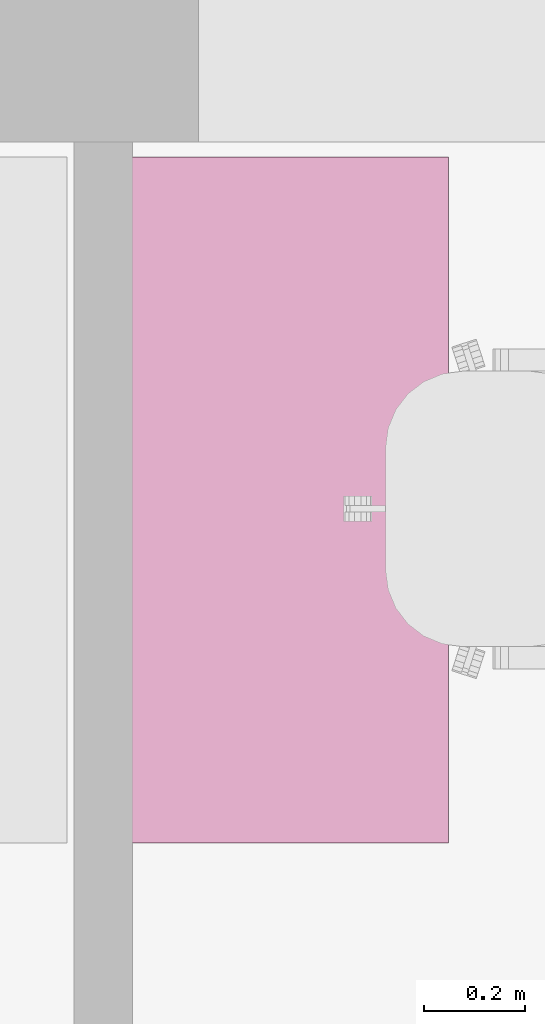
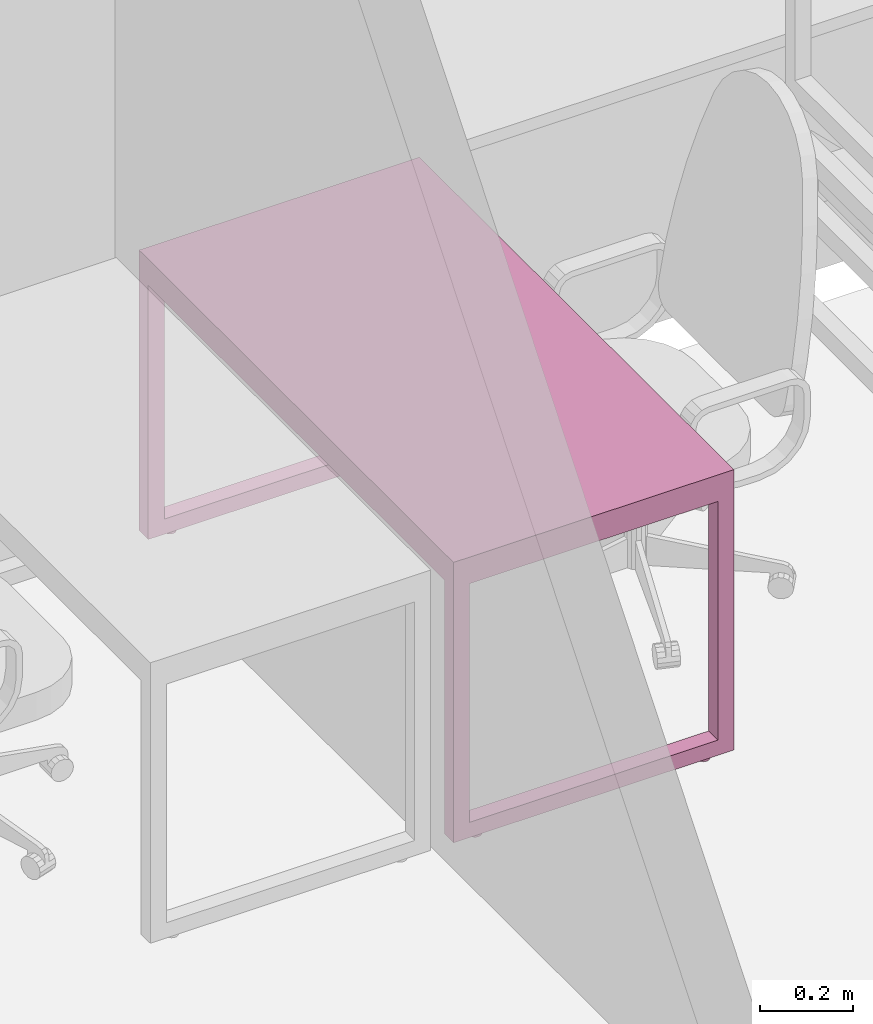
# One storey, part 43 of 48: 1 furnishing.
"""IFC2X3 building model written with IfcOpenShell, lengths in millimetres."""

from ifc_helpers import new_model, entity, si_unit, converted_unit, derived_unit, direction, frame, origin, place, context, subcontext, project, spatial, faceted_brep, source, transform, mapped, material, material_list, type_object, type_shapes, element, save


model = new_model("IFC2X3")

# Units and contexts
model_context = context("Model", 3, precision=0.01, world=origin(), true_north=direction((6.12303176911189e-17, 1.0)))
body_context = subcontext(model_context, "Body", "Model", "MODEL_VIEW")
ifc_project = project(units=[si_unit("LENGTHUNIT", "METRE", prefix="MILLI"), si_unit("AREAUNIT", "SQUARE_METRE"), si_unit("VOLUMEUNIT", "CUBIC_METRE"), converted_unit("PLANEANGLEUNIT", "DEGREE", entity("IfcRatioMeasure", 0.0174532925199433), si_unit("PLANEANGLEUNIT", "RADIAN"), dimensions=[0, 0, 0, 0, 0, 0, 0]), si_unit("MASSUNIT", "GRAM", prefix="KILO"), derived_unit("MASSDENSITYUNIT", [(si_unit("MASSUNIT", "GRAM", prefix="KILO"), 1), (si_unit("LENGTHUNIT", "METRE"), -3)]), si_unit("TIMEUNIT", "SECOND"), si_unit("FREQUENCYUNIT", "HERTZ"), si_unit("THERMODYNAMICTEMPERATUREUNIT", "DEGREE_CELSIUS"), derived_unit("THERMALTRANSMITTANCEUNIT", [(si_unit("MASSUNIT", "GRAM", prefix="KILO"), 1), (si_unit("THERMODYNAMICTEMPERATUREUNIT", "KELVIN"), -1), (si_unit("TIMEUNIT", "SECOND"), -3)]), derived_unit("VOLUMETRICFLOWRATEUNIT", [(si_unit("LENGTHUNIT", "METRE"), 3), (si_unit("TIMEUNIT", "SECOND"), -1)]), si_unit("ELECTRICCURRENTUNIT", "AMPERE"), si_unit("ELECTRICVOLTAGEUNIT", "VOLT"), si_unit("POWERUNIT", "WATT"), si_unit("FORCEUNIT", "NEWTON", prefix="KILO"), si_unit("ILLUMINANCEUNIT", "LUX"), si_unit("LUMINOUSFLUXUNIT", "LUMEN"), si_unit("LUMINOUSINTENSITYUNIT", "CANDELA"), derived_unit("USERDEFINED", [(si_unit("MASSUNIT", "GRAM", prefix="KILO"), -1), (si_unit("LENGTHUNIT", "METRE"), -2), (si_unit("TIMEUNIT", "SECOND"), 3), (si_unit("LUMINOUSFLUXUNIT", "LUMEN"), 1)]), derived_unit("LINEARVELOCITYUNIT", [(si_unit("LENGTHUNIT", "METRE"), 1), (si_unit("TIMEUNIT", "SECOND"), -1)]), si_unit("PRESSUREUNIT", "PASCAL"), derived_unit("USERDEFINED", [(si_unit("LENGTHUNIT", "METRE"), -2), (si_unit("MASSUNIT", "GRAM", prefix="KILO"), 1), (si_unit("TIMEUNIT", "SECOND"), -2)]), derived_unit("LINEARFORCEUNIT", [(si_unit("MASSUNIT", "GRAM", prefix="KILO"), 1), (si_unit("LENGTHUNIT", "METRE"), 1), (si_unit("TIMEUNIT", "SECOND"), -2), (si_unit("LENGTHUNIT", "METRE"), -1)]), derived_unit("PLANARFORCEUNIT", [(si_unit("MASSUNIT", "GRAM", prefix="KILO"), 1), (si_unit("LENGTHUNIT", "METRE"), 1), (si_unit("TIMEUNIT", "SECOND"), -2), (si_unit("LENGTHUNIT", "METRE"), -2)])], contexts=[model_context])

# Site, building, storey, space
site_placement = place(None, origin())
site = spatial("IfcSite", under=ifc_project, at=site_placement, Name="Default", CompositionType="ELEMENT")
building_placement = place(site_placement, origin())
building = spatial("IfcBuilding", under=site, at=building_placement, Name="SMA ARH", CompositionType="ELEMENT")
storey_placement = place(building_placement, frame((0.0, 0.0, 3300.0)))
storey = spatial("IfcBuildingStorey", under=building, at=storey_placement, Name="2 Korrus", CompositionType="ELEMENT", Elevation=3299.99999999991)
space_placement = place(storey_placement, origin())
space = spatial("IfcSpace", under=storey, at=space_placement, Name="2-30", CompositionType="ELEMENT", InteriorOrExteriorSpace="INTERNAL")

# Furnishing
ifc_material = material(Name="<Unnamed>")
ifc_material_list = material_list([ifc_material, ifc_material])
furniture_type = type_object("IfcFurnitureType", Name="kirjutuslaud 1360x700mm:kirjutuslaud 1360x700mm", material=ifc_material_list)
shared_shape = source(origin(), body_context, "Body", "Brep", [
    faceted_brep([(680.0, -350.0, 720.0), (680.0, 350.0, 720.0), (680.0, 350.0, 750.0), (680.0, -350.0, 750.0), (-680.0, -350.0, 720.0), (-680.0, -350.0, 750.0), (-680.0, 350.0, 750.0), (-680.0, 350.0, 720.0)], [[[0, 1, 2, 3]], [[4, 5, 6, 7]], [[1, 0, 4, 7]], [[2, 1, 7, 6]], [[3, 2, 6, 5]], [[0, 3, 5, 4]]]),
    faceted_brep([(-640.0, -310.0, 680.0), (-640.0, 310.0, 680.0), (-640.0, 310.0, 720.0), (-640.0, -310.0, 720.0), (-680.0, -350.0, 720.0), (-680.0, 350.0, 720.0), (-680.0, 350.0, 10.0), (-680.0, -350.0, 10.0), (-680.0, 310.0, 680.0), (-680.0, -310.0, 680.0), (-680.0, -310.0, 50.0), (-680.0, 310.0, 50.0), (-640.0, -350.0, 10.0), (-640.0, -350.0, 680.0), (640.0, -350.0, 680.0), (640.0, -350.0, 10.0), (680.0, -350.0, 10.0), (680.0, -350.0, 720.0), (-640.0, 350.0, 10.0), (680.0, 350.0, 720.0), (680.0, 350.0, 10.0), (640.0, 350.0, 10.0), (640.0, 350.0, 680.0), (-640.0, 350.0, 680.0), (640.0, 310.0, 720.0), (640.0, -310.0, 720.0), (-640.0, 310.0, 50.0), (-640.0, -310.0, 50.0), (640.0, -310.0, 680.0), (640.0, 310.0, 680.0), (680.0, 310.0, 680.0), (680.0, 310.0, 50.0), (680.0, -310.0, 50.0), (680.0, -310.0, 680.0), (640.0, -310.0, 50.0), (640.0, 310.0, 50.0)], [[[0, 1, 2, 3]], [[4, 5, 6, 7], [8, 9, 10, 11]], [[4, 7, 12, 13, 14, 15, 16, 17]], [[18, 12, 7, 6]], [[6, 5, 19, 20, 21, 22, 23, 18]], [[19, 5, 4, 17], [2, 24, 25, 3]], [[26, 1, 8, 11]], [[27, 26, 11, 10]], [[0, 27, 10, 9]], [[1, 0, 9, 8]], [[14, 13, 0, 28]], [[24, 2, 1, 29]], [[3, 25, 28, 0]], [[17, 16, 20, 19], [30, 31, 32, 33]], [[21, 15, 14, 28, 34, 35, 29, 22]], [[20, 16, 15, 21]], [[31, 30, 29, 35]], [[32, 31, 35, 34]], [[33, 32, 34, 28]], [[30, 33, 28, 29]], [[29, 28, 25, 24]], [[29, 1, 23, 22]], [[12, 18, 23, 1, 26, 27, 0, 13]]]),
    faceted_brep([(-663.729456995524, -270.466136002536, 0.0), (-659.847171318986, -269.955023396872, 0.0), (-655.964885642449, -270.466136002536, 0.0), (-652.347171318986, -271.964642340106, 0.0), (-649.240569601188, -274.348421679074, 0.0), (-646.85679026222, -277.455023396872, 0.0), (-645.35828392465, -281.072737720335, 0.0), (-644.847171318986, -284.955023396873, 0.0), (-645.35828392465, -288.83730907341, 0.0), (-646.85679026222, -292.455023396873, 0.0), (-649.240569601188, -295.561625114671, 0.0), (-652.347171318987, -297.945404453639, 0.0), (-655.964885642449, -299.443910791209, 0.0), (-659.847171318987, -299.955023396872, 0.0), (-663.729456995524, -299.443910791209, 0.0), (-667.347171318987, -297.945404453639, 0.0), (-670.453773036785, -295.561625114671, 0.0), (-672.837552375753, -292.455023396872, 0.0), (-674.336058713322, -288.83730907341, 0.0), (-674.847171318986, -284.955023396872, 0.0), (-674.336058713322, -281.072737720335, 0.0), (-672.837552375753, -277.455023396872, 0.0), (-670.453773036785, -274.348421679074, 0.0), (-667.347171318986, -271.964642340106, 0.0), (-655.964885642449, -299.443910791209, 10.0), (-652.347171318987, -297.945404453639, 10.0), (-649.240569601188, -295.561625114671, 10.0), (-646.85679026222, -292.455023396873, 10.0), (-645.35828392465, -288.83730907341, 10.0), (-644.847171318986, -284.955023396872, 10.0), (-645.35828392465, -281.072737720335, 10.0), (-646.85679026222, -277.455023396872, 10.0), (-649.240569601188, -274.348421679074, 10.0), (-652.347171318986, -271.964642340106, 10.0), (-655.964885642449, -270.466136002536, 10.0), (-659.847171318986, -269.955023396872, 10.0), (-663.729456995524, -270.466136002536, 10.0), (-667.347171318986, -271.964642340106, 10.0), (-670.453773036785, -274.348421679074, 10.0), (-672.837552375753, -277.455023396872, 10.0), (-674.336058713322, -281.072737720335, 10.0), (-674.847171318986, -284.955023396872, 10.0), (-674.336058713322, -288.83730907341, 10.0), (-672.837552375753, -292.455023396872, 10.0), (-670.453773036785, -295.561625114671, 10.0), (-667.347171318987, -297.945404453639, 10.0), (-663.729456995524, -299.443910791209, 10.0), (-659.847171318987, -299.955023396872, 10.0)], [[[0, 1, 2, 3, 4, 5, 6, 7, 8, 9, 10, 11, 12, 13, 14, 15, 16, 17, 18, 19, 20, 21, 22, 23]], [[24, 25, 26, 27, 28, 29, 30, 31, 32, 33, 34, 35, 36, 37, 38, 39, 40, 41, 42, 43, 44, 45, 46, 47]], [[18, 42, 41, 19]], [[17, 43, 42, 18]], [[45, 44, 16, 15]], [[17, 16, 44, 43]], [[46, 45, 15, 14]], [[47, 46, 14, 13]], [[12, 24, 47, 13]], [[11, 25, 24, 12]], [[27, 26, 10, 9]], [[11, 10, 26, 25]], [[28, 27, 9, 8]], [[29, 28, 8, 7]], [[6, 30, 29, 7]], [[5, 31, 30, 6]], [[33, 32, 4, 3]], [[5, 4, 32, 31]], [[34, 33, 3, 2]], [[35, 34, 2, 1]], [[0, 36, 35, 1]], [[23, 37, 36, 0]], [[39, 38, 22, 21]], [[23, 22, 38, 37]], [[40, 39, 21, 20]], [[41, 40, 20, 19]]]),
    faceted_brep([(-655.964885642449, 270.466136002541, 10.0), (-652.347171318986, 271.964642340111, 10.0), (-649.240569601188, 274.348421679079, 10.0), (-646.85679026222, 277.455023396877, 10.0), (-645.35828392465, 281.07273772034, 10.0), (-644.847171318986, 284.955023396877, 10.0), (-645.35828392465, 288.837309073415, 10.0), (-646.85679026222, 292.455023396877, 10.0), (-649.240569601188, 295.561625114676, 10.0), (-652.347171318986, 297.945404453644, 10.0), (-655.964885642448, 299.443910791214, 10.0), (-659.847171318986, 299.955023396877, 10.0), (-663.729456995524, 299.443910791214, 10.0), (-667.347171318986, 297.945404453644, 10.0), (-670.453773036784, 295.561625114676, 10.0), (-672.837552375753, 292.455023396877, 10.0), (-674.336058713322, 288.837309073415, 10.0), (-674.847171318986, 284.955023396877, 10.0), (-674.336058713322, 281.07273772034, 10.0), (-672.837552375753, 277.455023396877, 10.0), (-670.453773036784, 274.348421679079, 10.0), (-667.347171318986, 271.964642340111, 10.0), (-663.729456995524, 270.466136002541, 10.0), (-659.847171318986, 269.955023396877, 10.0), (-655.964885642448, 299.443910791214, 0.0), (-652.347171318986, 297.945404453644, 0.0), (-649.240569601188, 295.561625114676, 0.0), (-646.85679026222, 292.455023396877, 0.0), (-645.35828392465, 288.837309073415, 0.0), (-644.847171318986, 284.955023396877, 0.0), (-645.35828392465, 281.07273772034, 0.0), (-646.85679026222, 277.455023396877, 0.0), (-649.240569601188, 274.348421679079, 0.0), (-652.347171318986, 271.964642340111, 0.0), (-655.964885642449, 270.466136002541, 0.0), (-659.847171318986, 269.955023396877, 0.0), (-663.729456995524, 270.466136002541, 0.0), (-667.347171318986, 271.964642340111, 0.0), (-670.453773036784, 274.348421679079, 0.0), (-672.837552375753, 277.455023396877, 0.0), (-674.336058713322, 281.07273772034, 0.0), (-674.847171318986, 284.955023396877, 0.0), (-674.336058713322, 288.837309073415, 0.0), (-672.837552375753, 292.455023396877, 0.0), (-670.453773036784, 295.561625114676, 0.0), (-667.347171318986, 297.945404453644, 0.0), (-663.729456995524, 299.443910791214, 0.0), (-659.847171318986, 299.955023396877, 0.0)], [[[0, 1, 2, 3, 4, 5, 6, 7, 8, 9, 10, 11, 12, 13, 14, 15, 16, 17, 18, 19, 20, 21, 22, 23]], [[24, 25, 26, 27, 28, 29, 30, 31, 32, 33, 34, 35, 36, 37, 38, 39, 40, 41, 42, 43, 44, 45, 46, 47]], [[40, 18, 17, 41]], [[39, 19, 18, 40]], [[21, 20, 38, 37]], [[39, 38, 20, 19]], [[22, 21, 37, 36]], [[23, 22, 36, 35]], [[34, 0, 23, 35]], [[33, 1, 0, 34]], [[3, 2, 32, 31]], [[33, 32, 2, 1]], [[4, 3, 31, 30]], [[5, 4, 30, 29]], [[28, 6, 5, 29]], [[27, 7, 6, 28]], [[9, 8, 26, 25]], [[27, 26, 8, 7]], [[10, 9, 25, 24]], [[11, 10, 24, 47]], [[46, 12, 11, 47]], [[45, 13, 12, 46]], [[15, 14, 44, 43]], [[45, 44, 14, 13]], [[16, 15, 43, 42]], [[17, 16, 42, 41]]]),
    faceted_brep([(656.270543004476, -270.466136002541, 0.0), (660.152828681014, -269.955023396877, 0.0), (664.035114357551, -270.466136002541, 0.0), (667.652828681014, -271.96464234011, 0.0), (670.759430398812, -274.348421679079, 0.0), (673.14320973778, -277.455023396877, 0.0), (674.64171607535, -281.072737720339, 0.0), (675.152828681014, -284.955023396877, 0.0), (674.64171607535, -288.837309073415, 0.0), (673.14320973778, -292.455023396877, 0.0), (670.759430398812, -295.561625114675, 0.0), (667.652828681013, -297.945404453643, 0.0), (664.035114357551, -299.443910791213, 0.0), (660.152828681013, -299.955023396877, 0.0), (656.270543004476, -299.443910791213, 0.0), (652.652828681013, -297.945404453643, 0.0), (649.546226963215, -295.561625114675, 0.0), (647.162447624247, -292.455023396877, 0.0), (645.663941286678, -288.837309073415, 0.0), (645.152828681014, -284.955023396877, 0.0), (645.663941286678, -281.072737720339, 0.0), (647.162447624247, -277.455023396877, 0.0), (649.546226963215, -274.348421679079, 0.0), (652.652828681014, -271.96464234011, 0.0), (664.035114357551, -299.443910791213, 10.0), (667.652828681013, -297.945404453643, 10.0), (670.759430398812, -295.561625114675, 10.0), (673.14320973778, -292.455023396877, 10.0), (674.64171607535, -288.837309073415, 10.0), (675.152828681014, -284.955023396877, 10.0), (674.64171607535, -281.072737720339, 10.0), (673.14320973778, -277.455023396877, 10.0), (670.759430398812, -274.348421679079, 10.0), (667.652828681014, -271.96464234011, 10.0), (664.035114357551, -270.466136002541, 10.0), (660.152828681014, -269.955023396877, 10.0), (656.270543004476, -270.466136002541, 10.0), (652.652828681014, -271.96464234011, 10.0), (649.546226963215, -274.348421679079, 10.0), (647.162447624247, -277.455023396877, 10.0), (645.663941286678, -281.072737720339, 10.0), (645.152828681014, -284.955023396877, 10.0), (645.663941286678, -288.837309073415, 10.0), (647.162447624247, -292.455023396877, 10.0), (649.546226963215, -295.561625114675, 10.0), (652.652828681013, -297.945404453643, 10.0), (656.270543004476, -299.443910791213, 10.0), (660.152828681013, -299.955023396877, 10.0)], [[[0, 1, 2, 3, 4, 5, 6, 7, 8, 9, 10, 11, 12, 13, 14, 15, 16, 17, 18, 19, 20, 21, 22, 23]], [[24, 25, 26, 27, 28, 29, 30, 31, 32, 33, 34, 35, 36, 37, 38, 39, 40, 41, 42, 43, 44, 45, 46, 47]], [[18, 42, 41, 19]], [[17, 43, 42, 18]], [[45, 44, 16, 15]], [[17, 16, 44, 43]], [[46, 45, 15, 14]], [[47, 46, 14, 13]], [[12, 24, 47, 13]], [[11, 25, 24, 12]], [[27, 26, 10, 9]], [[11, 10, 26, 25]], [[28, 27, 9, 8]], [[29, 28, 8, 7]], [[6, 30, 29, 7]], [[5, 31, 30, 6]], [[33, 32, 4, 3]], [[5, 4, 32, 31]], [[34, 33, 3, 2]], [[35, 34, 2, 1]], [[0, 36, 35, 1]], [[23, 37, 36, 0]], [[39, 38, 22, 21]], [[23, 22, 38, 37]], [[40, 39, 21, 20]], [[41, 40, 20, 19]]]),
    faceted_brep([(664.035114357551, 270.466136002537, 10.0), (667.652828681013, 271.964642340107, 10.0), (670.759430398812, 274.348421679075, 10.0), (673.14320973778, 277.455023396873, 10.0), (674.64171607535, 281.072737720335, 10.0), (675.152828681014, 284.955023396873, 10.0), (674.64171607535, 288.837309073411, 10.0), (673.14320973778, 292.455023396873, 10.0), (670.759430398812, 295.561625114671, 10.0), (667.652828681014, 297.94540445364, 10.0), (664.035114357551, 299.443910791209, 10.0), (660.152828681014, 299.955023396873, 10.0), (656.270543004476, 299.443910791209, 10.0), (652.652828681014, 297.94540445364, 10.0), (649.546226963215, 295.561625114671, 10.0), (647.162447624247, 292.455023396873, 10.0), (645.663941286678, 288.837309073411, 10.0), (645.152828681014, 284.955023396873, 10.0), (645.663941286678, 281.072737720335, 10.0), (647.162447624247, 277.455023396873, 10.0), (649.546226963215, 274.348421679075, 10.0), (652.652828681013, 271.964642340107, 10.0), (656.270543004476, 270.466136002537, 10.0), (660.152828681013, 269.955023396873, 10.0), (664.035114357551, 299.443910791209, 0.0), (667.652828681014, 297.94540445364, 0.0), (670.759430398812, 295.561625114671, 0.0), (673.14320973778, 292.455023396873, 0.0), (674.64171607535, 288.837309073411, 0.0), (675.152828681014, 284.955023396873, 0.0), (674.64171607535, 281.072737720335, 0.0), (673.14320973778, 277.455023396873, 0.0), (670.759430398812, 274.348421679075, 0.0), (667.652828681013, 271.964642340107, 0.0), (664.035114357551, 270.466136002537, 0.0), (660.152828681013, 269.955023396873, 0.0), (656.270543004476, 270.466136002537, 0.0), (652.652828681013, 271.964642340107, 0.0), (649.546226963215, 274.348421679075, 0.0), (647.162447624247, 277.455023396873, 0.0), (645.663941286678, 281.072737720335, 0.0), (645.152828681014, 284.955023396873, 0.0), (645.663941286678, 288.837309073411, 0.0), (647.162447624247, 292.455023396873, 0.0), (649.546226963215, 295.561625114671, 0.0), (652.652828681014, 297.94540445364, 0.0), (656.270543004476, 299.443910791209, 0.0), (660.152828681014, 299.955023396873, 0.0)], [[[0, 1, 2, 3, 4, 5, 6, 7, 8, 9, 10, 11, 12, 13, 14, 15, 16, 17, 18, 19, 20, 21, 22, 23]], [[24, 25, 26, 27, 28, 29, 30, 31, 32, 33, 34, 35, 36, 37, 38, 39, 40, 41, 42, 43, 44, 45, 46, 47]], [[40, 18, 17, 41]], [[39, 19, 18, 40]], [[21, 20, 38, 37]], [[39, 38, 20, 19]], [[22, 21, 37, 36]], [[23, 22, 36, 35]], [[34, 0, 23, 35]], [[33, 1, 0, 34]], [[3, 2, 32, 31]], [[33, 32, 2, 1]], [[4, 3, 31, 30]], [[5, 4, 30, 29]], [[28, 6, 5, 29]], [[27, 7, 6, 28]], [[9, 8, 26, 25]], [[27, 26, 8, 7]], [[10, 9, 25, 24]], [[11, 10, 24, 47]], [[46, 12, 11, 47]], [[45, 13, 12, 46]], [[15, 14, 44, 43]], [[45, 44, 14, 13]], [[16, 15, 43, 42]], [[17, 16, 42, 41]]]),
])
type_shapes(furniture_type, [shared_shape])
furnishing_placement = place(space_placement, frame((28036.0, 11790.0, 0.0), z_axis=(0.0, 0.0, 1.0), x_axis=(0.0, 1.0, 0.0)))
element("IfcFurnishingElement", 1, at=furnishing_placement, inside=space, type_object=furniture_type, Name="kirjutuslaud 1360x700mm:kirjutuslaud 1360x700mm", ObjectType="kirjutuslaud 1360x700mm:kirjutuslaud 1360x700mm", context=body_context, shape_type="MappedRepresentation", body=[
    mapped(shared_shape, transform((0.0, 0.0, 0.0), scale=1.0)),
])

save(model, "model.ifc")
